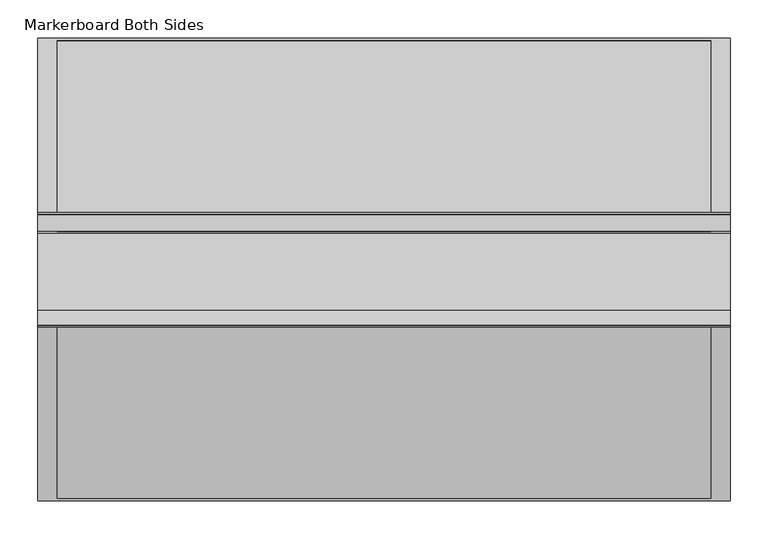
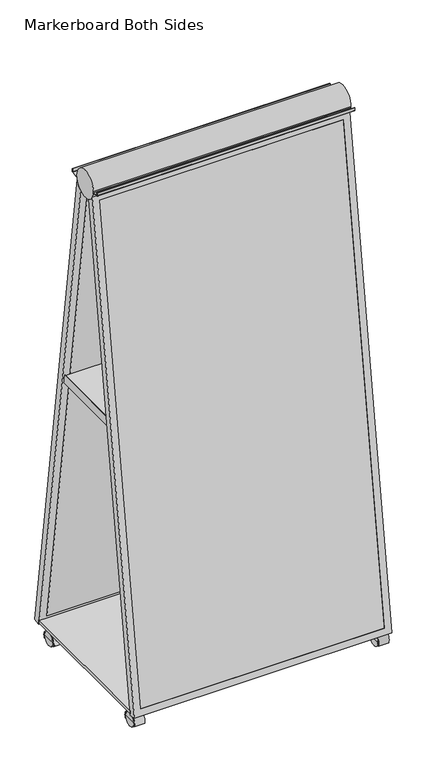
"""IFC4 building model written with IfcOpenShell, lengths in millimetres: furniture geometry, Steelcase - Groupwork - Display Component - Mobile Easel : Markerboard Both Sides."""

from ifc_helpers import new_model, si_unit, point, frame, frame_2d, origin, place, context, project, spatial, polyline, circle_curve, trimmed, segment, composite_curve, outline, extrude, source, transform, mapped, element, save
from ifc_brep_helpers import plane_surface, cylinder_surface, revolved_surface, advanced_brep


def markerboard_both_sides_742e3653(model_context):
    return source(origin(), model_context, "Body", "SolidModel", [
        extrude(outline(polyline([(912.241, 209.0803958), (912.241, -353.9569485), (-2.159, -353.9569485), (-2.159, 209.0803958), (912.241, 209.0803958)])), frame((0.0, 0.0, 55.9559345), z_axis=(0.0, 0.0, 1.0), x_axis=(1.0, 0.0, 0.0)), (0.0, 0.0, 1.0), 11.0744716),
        extrude(outline(composite_curve([segment(trimmed(circle_curve(frame_2d((-340.896683, 23.773811)), 29.5665427), [point((-368.7647403, 13.8969779))], [point((-313.0286257, 13.8969779))], False, "CARTESIAN"), True, "CONTINUOUS"), segment(polyline([(-313.0286257, 13.8969779), (-314.947255, 13.8969779)]), True, "CONTINUOUS"), segment(trimmed(circle_curve(frame_2d((-341.0549615, 23.1610765)), 27.7026327), [point((-314.947255, 13.8969779))], [point((-367.162668, 13.8969779))], True, "CARTESIAN"), True, "CONTINUOUS"), segment(polyline([(-367.162668, 13.8969779), (-368.7647403, 13.8969779)]), True, "CONTINUOUS")], self_intersect=False)), frame((870.3435574, 0.0, 0.0), z_axis=(1.0, 0.0, 0.0), x_axis=(0.0, 1.0, 0.0)), (0.0, 0.0, 1.0), 36.499807),
        extrude(outline(composite_curve([segment(trimmed(circle_curve(frame_2d((888.4018199, -322.7584539)), 6.6605385), [point((895.0623585, -322.7584539))], [point((881.7412814, -322.7584539))], False, "CARTESIAN"), True, "CONTINUOUS"), segment(trimmed(circle_curve(frame_2d((888.4018199, -322.7584539)), 6.6605385), [point((881.7412814, -322.7584539))], [point((895.0623585, -322.7584539))], False, "CARTESIAN"), True, "CONTINUOUS")], self_intersect=False)), frame((0.0, 0.0, 38.0999972), z_axis=(0.0, 0.0, 1.0), x_axis=(1.0, 0.0, 0.0)), (0.0, 0.0, 1.0), 19.0500194),
        advanced_brep(
        [(906.8433643, -341.1556844, 25.003125), (906.8433643, -365.7301049, 25.003125), (906.8433643, -316.5812638, 25.003125), (870.3435574, -316.5812638, 25.003125), (870.3435574, -365.7301049, 25.003125), (870.3435574, -341.1556844, 25.003125), (895.3304043, -365.7301049, 25.003125), (895.3304043, -316.5812638, 25.003125), (895.3304043, -354.0067895, 25.003125), (895.3304043, -328.3045792, 25.003125), (881.8565174, -354.0067895, 25.003125), (881.8565174, -328.3045792, 25.003125), (881.8565174, -365.7301049, 25.003125), (881.8565174, -316.5812638, 25.003125)],
        [
            (0, 1),
            (1, 2, circle_curve(frame((906.8433643, -341.1556844, 25.003125), z_axis=(1.0, 0.0, 0.0), x_axis=(0.0, -1.0, 0.0)), 24.5744205)),
            (2, 0),
            (2, 1, circle_curve(frame((906.8433643, -341.1556844, 25.003125), z_axis=(1.0, 0.0, 0.0), x_axis=(0.0, -1.0, 0.0)), 24.5744205)),
            (3, 4, circle_curve(frame((870.3435574, -341.1556844, 25.003125), z_axis=(-1.0, 0.0, 0.0), x_axis=(0.0, -1.0, 0.0)), 24.5744205)),
            (4, 5),
            (5, 3),
            (4, 3, circle_curve(frame((870.3435574, -341.1556844, 25.003125), z_axis=(-1.0, 0.0, 0.0), x_axis=(0.0, -1.0, 0.0)), 24.5744205)),
            (1, 6),
            (6, 7, circle_curve(frame((895.3304043, -341.1556844, 25.003125), z_axis=(1.0, 0.0, 0.0), x_axis=(0.0, -1.0, 0.0)), 24.5744205)),
            (7, 2),
            (7, 6, circle_curve(frame((895.3304043, -341.1556844, 25.003125), z_axis=(1.0, 0.0, 0.0), x_axis=(0.0, -1.0, 0.0)), 24.5744205)),
            (6, 8),
            (8, 9, circle_curve(frame((895.3304043, -341.1556844, 25.003125), z_axis=(1.0, 0.0, 0.0), x_axis=(0.0, -1.0, 0.0)), 12.8511051)),
            (9, 7),
            (9, 8, circle_curve(frame((895.3304043, -341.1556844, 25.003125), z_axis=(1.0, 0.0, 0.0), x_axis=(0.0, -1.0, 0.0)), 12.8511051)),
            (8, 10),
            (10, 11, circle_curve(frame((881.8565174, -341.1556844, 25.003125), z_axis=(1.0, 0.0, 0.0), x_axis=(0.0, -1.0, 0.0)), 12.8511051)),
            (11, 9),
            (11, 10, circle_curve(frame((881.8565174, -341.1556844, 25.003125), z_axis=(1.0, 0.0, 0.0), x_axis=(0.0, -1.0, 0.0)), 12.8511051)),
            (10, 12),
            (12, 13, circle_curve(frame((881.8565174, -341.1556844, 25.003125), z_axis=(1.0, 0.0, 0.0), x_axis=(0.0, -1.0, 0.0)), 24.5744205)),
            (13, 11),
            (13, 12, circle_curve(frame((881.8565174, -341.1556844, 25.003125), z_axis=(1.0, 0.0, 0.0), x_axis=(0.0, -1.0, 0.0)), 24.5744205)),
            (12, 4),
            (3, 13),
        ],
        [
            plane_surface(frame((906.8433643, -341.1556844, 25.003125), z_axis=(1.0, 0.0, 0.0), x_axis=(0.0, -1.0, 0.0))),
            plane_surface(frame((870.3435574, -341.1556844, 25.003125), z_axis=(-1.0, 0.0, 0.0), x_axis=(0.0, -1.0, 0.0))),
            cylinder_surface(frame((865.1938717, -341.1556844, 25.003125), z_axis=(1.0, 0.0, 0.0), x_axis=(0.0, -1.0, 0.0)), 24.5744205),
            plane_surface(frame((895.3304043, -341.1556844, 25.003125), z_axis=(-1.0, 0.0, 0.0), x_axis=(0.0, -1.0, 0.0))),
            cylinder_surface(frame((865.1938717, -341.1556844, 25.003125), z_axis=(1.0, 0.0, 0.0), x_axis=(0.0, -1.0, 0.0)), 12.8511051),
            plane_surface(frame((881.8565174, -341.1556844, 25.003125), z_axis=(1.0, 0.0, 0.0), x_axis=(0.0, -1.0, 0.0))),
        ],
        [
            (0, [[1, 2, 3]]),
            (0, [[-3, 4, -1]]),
            (1, [[5, 6, 7]]),
            (1, [[8, -7, -6]]),
            (2, [[-2, 9, 10, 11]]),
            (2, [[-4, -11, 12, -9]]),
            (3, [[-10, 13, 14, 15]]),
            (3, [[-12, -15, 16, -13]]),
            (4, [[-14, 17, 18, 19]]),
            (4, [[-16, -19, 20, -17]]),
            (5, [[-18, 21, 22, 23]]),
            (5, [[-20, -23, 24, -21]]),
            (2, [[-22, 25, -5, 26]]),
            (2, [[-24, -26, -8, -25]]),
        ],
    ),
        extrude(outline(composite_curve([segment(trimmed(circle_curve(frame_2d((-340.896683, 23.773811)), 29.5665427), [point((-368.7647403, 13.8969779))], [point((-313.0286257, 13.8969779))], False, "CARTESIAN"), True, "CONTINUOUS"), segment(polyline([(-313.0286257, 13.8969779), (-314.947255, 13.8969779)]), True, "CONTINUOUS"), segment(trimmed(circle_curve(frame_2d((-341.0549615, 23.1610765)), 27.7026327), [point((-314.947255, 13.8969779))], [point((-367.162668, 13.8969779))], True, "CARTESIAN"), True, "CONTINUOUS"), segment(polyline([(-367.162668, 13.8969779), (-368.7647403, 13.8969779)]), True, "CONTINUOUS")], self_intersect=False)), frame((3.2386357, 0.0, 0.0), z_axis=(1.0, 0.0, 0.0), x_axis=(0.0, 1.0, 0.0)), (0.0, 0.0, 1.0), 36.499807),
        extrude(outline(composite_curve([segment(trimmed(circle_curve(frame_2d((21.6801801, -322.7584539)), 6.6605385), [point((15.0196415, -322.7584539))], [point((28.3407186, -322.7584539))], False, "CARTESIAN"), True, "CONTINUOUS"), segment(trimmed(circle_curve(frame_2d((21.6801801, -322.7584539)), 6.6605385), [point((28.3407186, -322.7584539))], [point((15.0196415, -322.7584539))], False, "CARTESIAN"), True, "CONTINUOUS")], self_intersect=False)), frame((0.0, 0.0, 38.0999972), z_axis=(0.0, 0.0, 1.0), x_axis=(1.0, 0.0, 0.0)), (0.0, 0.0, 1.0), 19.0500194),
        advanced_brep(
        [(3.2386357, -316.5812638, 25.003125), (3.2386357, -365.7301049, 25.003125), (3.2386357, -341.1556844, 25.003125), (39.7384426, -341.1556844, 25.003125), (39.7384426, -365.7301049, 25.003125), (39.7384426, -316.5812638, 25.003125), (14.7515957, -316.5812638, 25.003125), (14.7515957, -365.7301049, 25.003125), (14.7515957, -328.3045792, 25.003125), (14.7515957, -354.0067895, 25.003125), (28.2254826, -328.3045792, 25.003125), (28.2254826, -354.0067895, 25.003125), (28.2254826, -316.5812638, 25.003125), (28.2254826, -365.7301049, 25.003125)],
        [
            (0, 1, circle_curve(frame((3.2386357, -341.1556844, 25.003125), z_axis=(-1.0, 0.0, 0.0), x_axis=(0.0, -1.0, 0.0)), 24.5744205)),
            (1, 2),
            (2, 0),
            (1, 0, circle_curve(frame((3.2386357, -341.1556844, 25.003125), z_axis=(-1.0, 0.0, 0.0), x_axis=(0.0, -1.0, 0.0)), 24.5744205)),
            (3, 4),
            (4, 5, circle_curve(frame((39.7384426, -341.1556844, 25.003125), z_axis=(1.0, 0.0, 0.0), x_axis=(0.0, -1.0, 0.0)), 24.5744205)),
            (5, 3),
            (5, 4, circle_curve(frame((39.7384426, -341.1556844, 25.003125), z_axis=(1.0, 0.0, 0.0), x_axis=(0.0, -1.0, 0.0)), 24.5744205)),
            (6, 7, circle_curve(frame((14.7515957, -341.1556844, 25.003125), z_axis=(-1.0, 0.0, 0.0), x_axis=(0.0, -1.0, 0.0)), 24.5744205)),
            (7, 1),
            (0, 6),
            (7, 6, circle_curve(frame((14.7515957, -341.1556844, 25.003125), z_axis=(-1.0, 0.0, 0.0), x_axis=(0.0, -1.0, 0.0)), 24.5744205)),
            (8, 9, circle_curve(frame((14.7515957, -341.1556844, 25.003125), z_axis=(-1.0, 0.0, 0.0), x_axis=(0.0, -1.0, 0.0)), 12.8511051)),
            (9, 7),
            (6, 8),
            (9, 8, circle_curve(frame((14.7515957, -341.1556844, 25.003125), z_axis=(-1.0, 0.0, 0.0), x_axis=(0.0, -1.0, 0.0)), 12.8511051)),
            (10, 11, circle_curve(frame((28.2254826, -341.1556844, 25.003125), z_axis=(-1.0, 0.0, 0.0), x_axis=(0.0, -1.0, 0.0)), 12.8511051)),
            (11, 9),
            (8, 10),
            (11, 10, circle_curve(frame((28.2254826, -341.1556844, 25.003125), z_axis=(-1.0, 0.0, 0.0), x_axis=(0.0, -1.0, 0.0)), 12.8511051)),
            (12, 13, circle_curve(frame((28.2254826, -341.1556844, 25.003125), z_axis=(-1.0, 0.0, 0.0), x_axis=(0.0, -1.0, 0.0)), 24.5744205)),
            (13, 11),
            (10, 12),
            (13, 12, circle_curve(frame((28.2254826, -341.1556844, 25.003125), z_axis=(-1.0, 0.0, 0.0), x_axis=(0.0, -1.0, 0.0)), 24.5744205)),
            (4, 13),
            (12, 5),
        ],
        [
            plane_surface(frame((3.2386357, -341.1556844, 25.003125), z_axis=(-1.0, 0.0, 0.0), x_axis=(0.0, -1.0, 0.0))),
            plane_surface(frame((39.7384426, -341.1556844, 25.003125), z_axis=(1.0, 0.0, 0.0), x_axis=(0.0, -1.0, 0.0))),
            cylinder_surface(frame((44.8881283, -341.1556844, 25.003125), z_axis=(1.0, 0.0, 0.0), x_axis=(0.0, -1.0, 0.0)), 24.5744205),
            plane_surface(frame((14.7515957, -341.1556844, 25.003125), z_axis=(1.0, 0.0, 0.0), x_axis=(0.0, -1.0, 0.0))),
            cylinder_surface(frame((44.8881283, -341.1556844, 25.003125), z_axis=(1.0, 0.0, 0.0), x_axis=(0.0, -1.0, 0.0)), 12.8511051),
            plane_surface(frame((28.2254826, -341.1556844, 25.003125), z_axis=(-1.0, 0.0, 0.0), x_axis=(0.0, -1.0, 0.0))),
        ],
        [
            (0, [[1, 2, 3]]),
            (0, [[4, -3, -2]]),
            (1, [[5, 6, 7]]),
            (1, [[-7, 8, -5]]),
            (2, [[9, 10, -1, 11]]),
            (2, [[12, -11, -4, -10]]),
            (3, [[13, 14, -9, 15]]),
            (3, [[16, -15, -12, -14]]),
            (4, [[17, 18, -13, 19]]),
            (4, [[20, -19, -16, -18]]),
            (5, [[21, 22, -17, 23]]),
            (5, [[24, -23, -20, -22]]),
            (2, [[-6, 25, -21, 26]]),
            (2, [[-8, -26, -24, -25]]),
        ],
    ),
        extrude(outline(composite_curve([segment(trimmed(circle_curve(frame_2d((157.2258919, 23.376936)), 29.5665427), [point((129.3578346, 13.5001029))], [point((185.0939492, 13.5001029))], False, "CARTESIAN"), True, "CONTINUOUS"), segment(polyline([(185.0939492, 13.5001029), (183.1753199, 13.5001029)]), True, "CONTINUOUS"), segment(trimmed(circle_curve(frame_2d((157.0676134, 22.7642015)), 27.7026327), [point((183.1753199, 13.5001029))], [point((130.959907, 13.5001029))], True, "CARTESIAN"), True, "CONTINUOUS"), segment(polyline([(130.959907, 13.5001029), (129.3578346, 13.5001029)]), True, "CONTINUOUS")], self_intersect=False)), frame((870.3435574, 0.0, 0.0), z_axis=(1.0, 0.0, 0.0), x_axis=(0.0, 1.0, 0.0)), (0.0, 0.0, 1.0), 36.499807),
        extrude(outline(composite_curve([segment(trimmed(circle_curve(frame_2d((888.4018199, 175.364121)), 6.6605385), [point((895.0623585, 175.364121))], [point((881.7412814, 175.364121))], False, "CARTESIAN"), True, "CONTINUOUS"), segment(trimmed(circle_curve(frame_2d((888.4018199, 175.364121)), 6.6605385), [point((881.7412814, 175.364121))], [point((895.0623585, 175.364121))], False, "CARTESIAN"), True, "CONTINUOUS")], self_intersect=False)), frame((0.0, 0.0, 38.0999972), z_axis=(0.0, 0.0, 1.0), x_axis=(1.0, 0.0, 0.0)), (0.0, 0.0, 1.0), 19.0500194),
        advanced_brep(
        [(906.8433643, 156.9668906, 25.003125), (906.8433643, 132.39247, 25.003125), (906.8433643, 181.5413111, 25.003125), (870.3435574, 181.5413111, 25.003125), (870.3435574, 132.39247, 25.003125), (870.3435574, 156.9668906, 25.003125), (895.3304043, 132.39247, 25.003125), (895.3304043, 181.5413111, 25.003125), (895.3304043, 144.1157855, 25.003125), (895.3304043, 169.8179957, 25.003125), (881.8565174, 144.1157855, 25.003125), (881.8565174, 169.8179957, 25.003125), (881.8565174, 132.39247, 25.003125), (881.8565174, 181.5413111, 25.003125)],
        [
            (0, 1),
            (1, 2, circle_curve(frame((906.8433643, 156.9668906, 25.003125), z_axis=(1.0, 0.0, 0.0), x_axis=(0.0, -1.0, 0.0)), 24.5744205)),
            (2, 0),
            (2, 1, circle_curve(frame((906.8433643, 156.9668906, 25.003125), z_axis=(1.0, 0.0, 0.0), x_axis=(0.0, -1.0, 0.0)), 24.5744205)),
            (3, 4, circle_curve(frame((870.3435574, 156.9668906, 25.003125), z_axis=(-1.0, 0.0, 0.0), x_axis=(0.0, -1.0, 0.0)), 24.5744205)),
            (4, 5),
            (5, 3),
            (4, 3, circle_curve(frame((870.3435574, 156.9668906, 25.003125), z_axis=(-1.0, 0.0, 0.0), x_axis=(0.0, -1.0, 0.0)), 24.5744205)),
            (1, 6),
            (6, 7, circle_curve(frame((895.3304043, 156.9668906, 25.003125), z_axis=(1.0, 0.0, 0.0), x_axis=(0.0, -1.0, 0.0)), 24.5744205)),
            (7, 2),
            (7, 6, circle_curve(frame((895.3304043, 156.9668906, 25.003125), z_axis=(1.0, 0.0, 0.0), x_axis=(0.0, -1.0, 0.0)), 24.5744205)),
            (6, 8),
            (8, 9, circle_curve(frame((895.3304043, 156.9668906, 25.003125), z_axis=(1.0, 0.0, 0.0), x_axis=(0.0, -1.0, 0.0)), 12.8511051)),
            (9, 7),
            (9, 8, circle_curve(frame((895.3304043, 156.9668906, 25.003125), z_axis=(1.0, 0.0, 0.0), x_axis=(0.0, -1.0, 0.0)), 12.8511051)),
            (8, 10),
            (10, 11, circle_curve(frame((881.8565174, 156.9668906, 25.003125), z_axis=(1.0, 0.0, 0.0), x_axis=(0.0, -1.0, 0.0)), 12.8511051)),
            (11, 9),
            (11, 10, circle_curve(frame((881.8565174, 156.9668906, 25.003125), z_axis=(1.0, 0.0, 0.0), x_axis=(0.0, -1.0, 0.0)), 12.8511051)),
            (10, 12),
            (12, 13, circle_curve(frame((881.8565174, 156.9668906, 25.003125), z_axis=(1.0, 0.0, 0.0), x_axis=(0.0, -1.0, 0.0)), 24.5744205)),
            (13, 11),
            (13, 12, circle_curve(frame((881.8565174, 156.9668906, 25.003125), z_axis=(1.0, 0.0, 0.0), x_axis=(0.0, -1.0, 0.0)), 24.5744205)),
            (12, 4),
            (3, 13),
        ],
        [
            plane_surface(frame((906.8433643, 156.9668906, 25.003125), z_axis=(1.0, 0.0, 0.0), x_axis=(0.0, -1.0, 0.0))),
            plane_surface(frame((870.3435574, 156.9668906, 25.003125), z_axis=(-1.0, 0.0, 0.0), x_axis=(0.0, -1.0, 0.0))),
            cylinder_surface(frame((865.1938717, 156.9668906, 25.003125), z_axis=(1.0, 0.0, 0.0), x_axis=(0.0, -1.0, 0.0)), 24.5744205),
            plane_surface(frame((895.3304043, 156.9668906, 25.003125), z_axis=(-1.0, 0.0, 0.0), x_axis=(0.0, -1.0, 0.0))),
            cylinder_surface(frame((865.1938717, 156.9668906, 25.003125), z_axis=(1.0, 0.0, 0.0), x_axis=(0.0, -1.0, 0.0)), 12.8511051),
            plane_surface(frame((881.8565174, 156.9668906, 25.003125), z_axis=(1.0, 0.0, 0.0), x_axis=(0.0, -1.0, 0.0))),
        ],
        [
            (0, [[1, 2, 3]]),
            (0, [[-3, 4, -1]]),
            (1, [[5, 6, 7]]),
            (1, [[8, -7, -6]]),
            (2, [[-2, 9, 10, 11]]),
            (2, [[-4, -11, 12, -9]]),
            (3, [[-10, 13, 14, 15]]),
            (3, [[-12, -15, 16, -13]]),
            (4, [[-14, 17, 18, 19]]),
            (4, [[-16, -19, 20, -17]]),
            (5, [[-18, 21, 22, 23]]),
            (5, [[-20, -23, 24, -21]]),
            (2, [[-22, 25, -5, 26]]),
            (2, [[-24, -26, -8, -25]]),
        ],
    ),
        extrude(outline(composite_curve([segment(trimmed(circle_curve(frame_2d((157.2258919, 23.376936)), 29.5665427), [point((129.3578346, 13.5001029))], [point((185.0939492, 13.5001029))], False, "CARTESIAN"), True, "CONTINUOUS"), segment(polyline([(185.0939492, 13.5001029), (183.1753199, 13.5001029)]), True, "CONTINUOUS"), segment(trimmed(circle_curve(frame_2d((157.0676134, 22.7642015)), 27.7026327), [point((183.1753199, 13.5001029))], [point((130.959907, 13.5001029))], True, "CARTESIAN"), True, "CONTINUOUS"), segment(polyline([(130.959907, 13.5001029), (129.3578346, 13.5001029)]), True, "CONTINUOUS")], self_intersect=False)), frame((3.2386357, 0.0, 0.0), z_axis=(1.0, 0.0, 0.0), x_axis=(0.0, 1.0, 0.0)), (0.0, 0.0, 1.0), 36.499807),
        extrude(outline(composite_curve([segment(trimmed(circle_curve(frame_2d((21.6801801, 175.364121)), 6.6605385), [point((15.0196415, 175.364121))], [point((28.3407186, 175.364121))], False, "CARTESIAN"), True, "CONTINUOUS"), segment(trimmed(circle_curve(frame_2d((21.6801801, 175.364121)), 6.6605385), [point((28.3407186, 175.364121))], [point((15.0196415, 175.364121))], False, "CARTESIAN"), True, "CONTINUOUS")], self_intersect=False)), frame((0.0, 0.0, 38.0999972), z_axis=(0.0, 0.0, 1.0), x_axis=(1.0, 0.0, 0.0)), (0.0, 0.0, 1.0), 19.0500194),
        advanced_brep(
        [(3.2386357, 181.5413111, 25.003125), (3.2386357, 132.39247, 25.003125), (3.2386357, 156.9668906, 25.003125), (39.7384426, 156.9668906, 25.003125), (39.7384426, 132.39247, 25.003125), (39.7384426, 181.5413111, 25.003125), (14.7515957, 181.5413111, 25.003125), (14.7515957, 132.39247, 25.003125), (14.7515957, 169.8179957, 25.003125), (14.7515957, 144.1157855, 25.003125), (28.2254826, 169.8179957, 25.003125), (28.2254826, 144.1157855, 25.003125), (28.2254826, 181.5413111, 25.003125), (28.2254826, 132.39247, 25.003125)],
        [
            (0, 1, circle_curve(frame((3.2386357, 156.9668906, 25.003125), z_axis=(-1.0, 0.0, 0.0), x_axis=(0.0, -1.0, 0.0)), 24.5744205)),
            (1, 2),
            (2, 0),
            (1, 0, circle_curve(frame((3.2386357, 156.9668906, 25.003125), z_axis=(-1.0, 0.0, 0.0), x_axis=(0.0, -1.0, 0.0)), 24.5744205)),
            (3, 4),
            (4, 5, circle_curve(frame((39.7384426, 156.9668906, 25.003125), z_axis=(1.0, 0.0, 0.0), x_axis=(0.0, -1.0, 0.0)), 24.5744205)),
            (5, 3),
            (5, 4, circle_curve(frame((39.7384426, 156.9668906, 25.003125), z_axis=(1.0, 0.0, 0.0), x_axis=(0.0, -1.0, 0.0)), 24.5744205)),
            (6, 7, circle_curve(frame((14.7515957, 156.9668906, 25.003125), z_axis=(-1.0, 0.0, 0.0), x_axis=(0.0, -1.0, 0.0)), 24.5744205)),
            (7, 1),
            (0, 6),
            (7, 6, circle_curve(frame((14.7515957, 156.9668906, 25.003125), z_axis=(-1.0, 0.0, 0.0), x_axis=(0.0, -1.0, 0.0)), 24.5744205)),
            (8, 9, circle_curve(frame((14.7515957, 156.9668906, 25.003125), z_axis=(-1.0, 0.0, 0.0), x_axis=(0.0, -1.0, 0.0)), 12.8511051)),
            (9, 7),
            (6, 8),
            (9, 8, circle_curve(frame((14.7515957, 156.9668906, 25.003125), z_axis=(-1.0, 0.0, 0.0), x_axis=(0.0, -1.0, 0.0)), 12.8511051)),
            (10, 11, circle_curve(frame((28.2254826, 156.9668906, 25.003125), z_axis=(-1.0, 0.0, 0.0), x_axis=(0.0, -1.0, 0.0)), 12.8511051)),
            (11, 9),
            (8, 10),
            (11, 10, circle_curve(frame((28.2254826, 156.9668906, 25.003125), z_axis=(-1.0, 0.0, 0.0), x_axis=(0.0, -1.0, 0.0)), 12.8511051)),
            (12, 13, circle_curve(frame((28.2254826, 156.9668906, 25.003125), z_axis=(-1.0, 0.0, 0.0), x_axis=(0.0, -1.0, 0.0)), 24.5744205)),
            (13, 11),
            (10, 12),
            (13, 12, circle_curve(frame((28.2254826, 156.9668906, 25.003125), z_axis=(-1.0, 0.0, 0.0), x_axis=(0.0, -1.0, 0.0)), 24.5744205)),
            (4, 13),
            (12, 5),
        ],
        [
            plane_surface(frame((3.2386357, 156.9668906, 25.003125), z_axis=(-1.0, 0.0, 0.0), x_axis=(0.0, -1.0, 0.0))),
            plane_surface(frame((39.7384426, 156.9668906, 25.003125), z_axis=(1.0, 0.0, 0.0), x_axis=(0.0, -1.0, 0.0))),
            cylinder_surface(frame((44.8881283, 156.9668906, 25.003125), z_axis=(1.0, 0.0, 0.0), x_axis=(0.0, -1.0, 0.0)), 24.5744205),
            plane_surface(frame((14.7515957, 156.9668906, 25.003125), z_axis=(1.0, 0.0, 0.0), x_axis=(0.0, -1.0, 0.0))),
            cylinder_surface(frame((44.8881283, 156.9668906, 25.003125), z_axis=(1.0, 0.0, 0.0), x_axis=(0.0, -1.0, 0.0)), 12.8511051),
            plane_surface(frame((28.2254826, 156.9668906, 25.003125), z_axis=(-1.0, 0.0, 0.0), x_axis=(0.0, -1.0, 0.0))),
        ],
        [
            (0, [[1, 2, 3]]),
            (0, [[4, -3, -2]]),
            (1, [[5, 6, 7]]),
            (1, [[-7, 8, -5]]),
            (2, [[9, 10, -1, 11]]),
            (2, [[12, -11, -4, -10]]),
            (3, [[13, 14, -9, 15]]),
            (3, [[16, -15, -12, -14]]),
            (4, [[17, 18, -13, 19]]),
            (4, [[20, -19, -16, -18]]),
            (5, [[21, 22, -17, 23]]),
            (5, [[24, -23, -20, -22]]),
            (2, [[-6, 25, -21, 26]]),
            (2, [[-8, -26, -24, -25]]),
        ],
    ),
        extrude(outline(polyline([(4.9202191, 66.5620427), (4.9202191, -211.2074513), (3.5813473, -211.2074513), (3.5813473, 66.5620427), (4.9202191, 66.5620427)])), frame((0.0, 0.0, 1043.9653473), z_axis=(0.0, 0.0, 1.0), x_axis=(1.0, 0.0, 0.0)), (0.0, 0.0, 1.0), 31.1149929),
        extrude(outline(polyline([(907.6056012, 66.8343234), (908.944473, 66.8343234), (908.944473, -211.2074513), (907.6056012, -211.2074513), (907.6056012, 66.8343234)])), frame((0.0, 0.0, 1043.9653473), z_axis=(0.0, 0.0, 1.0), x_axis=(1.0, 0.0, 0.0)), (0.0, 0.0, 1.0), 31.1149929),
        extrude(outline(polyline([(907.6230753, 56.2244206), (911.3863243, -203.5931507), (4.9202191, -203.5931507), (4.9202191, 56.2244206), (907.6230753, 56.2244206)]), holes=[polyline([(832.1293202, -11.9961246), (523.9004597, -11.9961246), (523.9004597, -135.4182855), (832.1293202, -135.4182855), (832.1293202, -11.9961246)])]), frame((0.0, 0.0, 1073.7582962), z_axis=(0.0, 0.0, 1.0), x_axis=(1.0, 0.0, 0.0)), (0.0, 0.0, 1.0), 1.322044),
        extrude(outline(polyline([(0.0, -863.6000234), (0.0, 0.0), (25.4130401, 0.0), (25.4130401, -863.6000234), (0.0, -863.6000234)])), frame((23.2410008, -375.1625532, 79.563883), z_axis=(0.0, 0.14199919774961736, 0.9898667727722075), x_axis=(0.0, 0.9898667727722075, -0.14199919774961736)), (0.0, 0.0, 1.0), 1775.4529323),
        extrude(outline(polyline([(0.0, -863.6000234), (0.0, 0.0), (25.4130402, 0.0), (25.4130402, -863.6000234), (0.0, -863.6000234)])), frame((886.8410242, 229.6904126, 79.563883), z_axis=(0.0, -0.14199919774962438, 0.9898667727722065), x_axis=(0.0, -0.9898667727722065, -0.14199919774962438)), (0.0, 0.0, 1.0), 1779.1600852),
        extrude(outline(composite_curve([segment(polyline([(-149.1854251, 1878.0088503), (-149.1854251, 1888.733676), (-147.6613903, 1888.733676), (-147.6613903, 1878.6725989)]), True, "CONTINUOUS"), segment(trimmed(circle_curve(frame_2d((-146.4220817, 1878.6725989)), 1.2393085), [point((-147.6613903, 1878.6725989))], [point((-146.5850879, 1877.4440573))], True, "CARTESIAN"), True, "CONTINUOUS"), segment(polyline([(-146.5850879, 1877.4440573), (-124.8672534, 1874.5624771), (-125.0708281, 1873.0281793), (-147.419817, 1875.9935028)]), True, "CONTINUOUS"), segment(trimmed(circle_curve(frame_2d((-147.1524153, 1878.0088503)), 2.0330099), [point((-147.419817, 1875.9935028))], [point((-149.1854251, 1878.0088503))], False, "CARTESIAN"), True, "CONTINUOUS")], self_intersect=False)), frame((-2.159, 0.0, 0.0), z_axis=(1.0, 0.0, 0.0), x_axis=(0.0, 1.0, 0.0)), (0.0, 0.0, 1.0), 914.4),
        extrude(outline(composite_curve([segment(trimmed(circle_curve(frame_2d((0.0927744, 1878.0088503)), 2.0330099), [point((2.1257843, 1878.0088503))], [point((0.3601761, 1875.9935028))], False, "CARTESIAN"), True, "CONTINUOUS"), segment(polyline([(0.3601761, 1875.9935028), (-21.9888128, 1873.0281793), (-22.1923875, 1874.5624771), (-0.474553, 1877.4440573)]), True, "CONTINUOUS"), segment(trimmed(circle_curve(frame_2d((-0.6375591, 1878.6725989)), 1.2393085), [point((-0.474553, 1877.4440573))], [point((0.6017494, 1878.6725989))], True, "CARTESIAN"), True, "CONTINUOUS"), segment(polyline([(0.6017494, 1878.6725989), (0.6017494, 1888.733676), (2.1257843, 1888.733676), (2.1257843, 1878.0088503)]), True, "CONTINUOUS")], self_intersect=False)), frame((-2.159, 0.0, 0.0), z_axis=(1.0, 0.0, 0.0), x_axis=(0.0, 1.0, 0.0)), (0.0, 0.0, 1.0), 914.4),
        extrude(outline(composite_curve([segment(trimmed(circle_curve(frame_2d((-75.9110704, 1879.6)), 50.7999998), [point((-126.7110703, 1879.6))], [point((-25.1110706, 1879.6))], False, "CARTESIAN"), True, "CONTINUOUS"), segment(trimmed(circle_curve(frame_2d((-75.9110704, 1879.6)), 50.7999998), [point((-25.1110706, 1879.6))], [point((-126.7110703, 1879.6))], False, "CARTESIAN"), True, "CONTINUOUS")], self_intersect=False)), frame((-2.159, 0.0, 0.0), z_axis=(1.0, 0.0, 0.0), x_axis=(0.0, 1.0, 0.0)), (0.0, 0.0, 1.0), 914.4),
        advanced_brep(
        [(912.241, -97.842371, 1833.7779743), (912.241, -120.4477065, 1855.1637968), (912.241, -378.7711452, 54.4086328), (912.241, -353.6156212, 50.8000015), (-2.159, -97.842371, 1833.7779743), (-2.159, -353.6156212, 50.8000015), (-2.159, -378.7711452, 54.4086328), (-2.159, -120.4477065, 1855.1637968), (886.8410242, -350.0070292, 75.9552517), (886.8410242, -97.8941372, 1833.417116), (23.2410008, -97.8941372, 1833.417116), (23.2410008, -350.0070292, 75.9552517), (886.8410242, -123.0496612, 1837.0257474), (886.8410242, -375.1625532, 79.563883), (23.2410008, -375.1625532, 79.563883), (23.2410008, -123.0496612, 1837.0257474)],
        [
            (0, 1, circle_curve(frame((912.241, -75.9110704, 1879.6), z_axis=(-1.0, 0.0, 0.0), x_axis=(0.0, -1.0, 0.0)), 50.7999998)),
            (1, 2),
            (2, 3),
            (3, 0),
            (4, 5),
            (5, 6),
            (6, 7),
            (7, 4, circle_curve(frame((-2.159, -75.9110704, 1879.6), z_axis=(1.0, 0.0, 0.0), x_axis=(0.0, -1.0, 0.0)), 50.7999998)),
            (3, 5),
            (4, 0),
            (8, 9),
            (9, 10),
            (10, 11),
            (11, 8),
            (2, 6),
            (1, 7),
            (12, 13),
            (13, 14),
            (14, 15),
            (15, 12),
            (12, 9),
            (8, 13),
            (11, 14),
            (10, 15),
        ],
        [
            plane_surface(frame((912.241, -126.7110703, 1879.6), z_axis=(1.0, 0.0, 0.0), x_axis=(0.0, 0.0, 1.0))),
            plane_surface(frame((-2.159, -126.7110703, 1879.6), z_axis=(-1.0, 0.0, 0.0), x_axis=(0.0, 0.0, -1.0))),
            plane_surface(frame((912.241, -353.6156212, 50.8000015), z_axis=(0.0, 0.9898667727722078, -0.1419991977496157), x_axis=(-1.0, 0.0, 0.0))),
            plane_surface(frame((912.241, -378.7711452, 54.4086328), z_axis=(0.0, -0.141999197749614, -0.989866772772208), x_axis=(-1.0, 0.0, 0.0))),
            plane_surface(frame((912.241, -120.4477065, 1855.1637968), z_axis=(0.0, -0.9898667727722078, 0.14199919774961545), x_axis=(-1.0, 0.0, 0.0))),
            revolved_surface(polyline([(-2.159, -126.7110702, 1879.6), (912.241, -126.7110702, 1879.6)]), (-2.159, -75.9110704, 1879.6), (-1.0, 0.0, 0.0)),
            plane_surface(frame((886.8410242, -97.8941396, 1833.4171164), z_axis=(-1.0000000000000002, 0.0, 0.0), x_axis=(0.0, -0.9898667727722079, 0.14199919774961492))),
            plane_surface(frame((886.8410242, -350.0070316, 75.9552521), z_axis=(0.0, 0.141999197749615, 0.9898667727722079), x_axis=(0.0, -0.9898667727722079, 0.141999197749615))),
            plane_surface(frame((23.2410008, -350.0070316, 75.9552521), z_axis=(1.0000000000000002, 0.0, 0.0), x_axis=(0.0, -0.9898667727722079, 0.141999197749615))),
            plane_surface(frame((23.2410008, -97.8941396, 1833.4171164), z_axis=(0.0, -0.14199919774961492, -0.9898667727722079), x_axis=(0.0, -0.9898667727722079, 0.14199919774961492))),
        ],
        [
            (0, [[1, 2, 3, 4]]),
            (1, [[5, 6, 7, 8]]),
            (2, [[-4, 9, -5, 10], [11, 12, 13, 14]]),
            (3, [[-3, 15, -6, -9]]),
            (4, [[-2, 16, -7, -15], [17, 18, 19, 20]]),
            (5, [[-1, -10, -8, -16]]),
            (6, [[21, -11, 22, -17]]),
            (7, [[-22, -14, 23, -18]]),
            (8, [[-23, -13, 24, -19]]),
            (9, [[-21, -20, -24, -12]]),
        ],
    ),
        advanced_brep(
        [(912.241, -48.1044162, 1837.0867035), (912.241, 208.1434806, 50.8000015), (912.241, 233.2990046, 54.4086328), (912.241, -26.7138024, 1866.9402685), (-2.159, -48.1044162, 1837.0867035), (-2.159, -26.7138024, 1866.9402685), (-2.159, 233.2990046, 54.4086328), (-2.159, 208.1434806, 50.8000015), (886.8410242, -48.1044162, 1837.0867035), (886.8410242, 204.5348885, 75.9552517), (23.2410008, 204.5348885, 75.9552517), (23.2410008, -48.1044162, 1837.0867035), (886.8410242, 229.6904126, 79.563883), (886.8410242, -22.9488922, 1840.6953348), (23.2410008, -22.9488922, 1840.6953348), (23.2410008, 229.6904126, 79.563883)],
        [
            (0, 1),
            (1, 2),
            (2, 3),
            (3, 0, circle_curve(frame((912.241, -75.9062701, 1879.597391), z_axis=(-1.0, 0.0, 0.0), x_axis=(0.0, 1.0, 0.0)), 50.7947008)),
            (4, 5, circle_curve(frame((-2.159, -75.9062701, 1879.597391), z_axis=(1.0, 0.0, 0.0), x_axis=(0.0, 1.0, 0.0)), 50.7947008)),
            (5, 6),
            (6, 7),
            (7, 4),
            (0, 8),
            (8, 9),
            (9, 10),
            (10, 11),
            (11, 4),
            (7, 1),
            (6, 2),
            (5, 3),
            (12, 13),
            (13, 14),
            (14, 15),
            (15, 12),
            (11, 8),
            (12, 9),
            (8, 13),
            (15, 10),
            (14, 11),
        ],
        [
            plane_surface(frame((912.241, 208.1434806, 50.8000015), z_axis=(1.0000000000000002, 0.0, 0.0), x_axis=(0.0, 0.14199919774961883, -0.9898667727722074))),
            plane_surface(frame((-2.159, 208.1434806, 50.8000015), z_axis=(-1.0000000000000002, 0.0, 0.0), x_axis=(0.0, -0.14199919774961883, 0.9898667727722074))),
            plane_surface(frame((912.241, -48.1044162, 1837.0867035), z_axis=(0.0, -0.9898667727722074, -0.14199919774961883), x_axis=(-1.0, 0.0, 0.0))),
            plane_surface(frame((912.241, 208.1434806, 50.8000015), z_axis=(0.0, 0.1419991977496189, -0.9898667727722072), x_axis=(-1.0, 0.0, 0.0))),
            plane_surface(frame((912.241, 233.2990046, 54.4086328), z_axis=(0.0, 0.9898667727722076, 0.14199919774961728), x_axis=(-1.0, 0.0, 0.0))),
            revolved_surface(polyline([(-2.159, -25.1115693, 1879.597391), (912.241, -25.1115693, 1879.597391)]), (-2.159, -75.9062701, 1879.597391), (-1.0, 0.0, 0.0)),
            plane_surface(frame((886.8410242, 204.534891, 75.9552521), z_axis=(-1.0, 0.0, 0.0), x_axis=(0.0, 0.9898667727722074, 0.1419991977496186))),
            plane_surface(frame((23.2410008, 204.534891, 75.9552521), z_axis=(0.0, -0.1419991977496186, 0.9898667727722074), x_axis=(0.0, 0.9898667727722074, 0.1419991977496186))),
            plane_surface(frame((23.2410008, -48.1044138, 1837.0867038), z_axis=(1.0, 0.0, 0.0), x_axis=(0.0, 0.9898667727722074, 0.1419991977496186))),
            plane_surface(frame((886.8410242, -48.1044138, 1837.0867038), z_axis=(0.0, 0.1419991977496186, -0.9898667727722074), x_axis=(0.0, 0.9898667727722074, 0.1419991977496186))),
        ],
        [
            (0, [[1, 2, 3, 4]]),
            (1, [[5, 6, 7, 8]]),
            (2, [[-1, 9, 10, 11, 12, 13, -8, 14]]),
            (3, [[-2, -14, -7, 15]]),
            (4, [[-3, -15, -6, 16], [17, 18, 19, 20]]),
            (5, [[-4, -16, -5, -13, 21, -9]]),
            (6, [[22, -10, 23, -17]]),
            (7, [[-22, -20, 24, -11]]),
            (8, [[-24, -19, 25, -12]]),
            (9, [[-25, -18, -23, -21]]),
        ],
    ),
    ])


if __name__ == "__main__":
    model = new_model("IFC4")
    model_context = context("Model", 3, world=origin())
    ifc_project = project(units=[si_unit("LENGTHUNIT", "METRE", prefix="MILLI")], contexts=[model_context])
    site = spatial("IfcSite", under=ifc_project)
    building = spatial("IfcBuilding", under=site)
    placement = place(None, origin())
    markerboard_both_sides_shape = markerboard_both_sides_742e3653(model_context)
    element("IfcFurniture", 1, ObjectType="Steelcase - Groupwork - Display Component - Mobile Easel : Markerboard Both Sides", at=placement, inside=building, context=model_context, shape_type="MappedRepresentation", body=[
        mapped(markerboard_both_sides_shape, transform((0.0, 0.0, 0.0), x_axis=(1.0, 0.0, 0.0), y_axis=(0.0, 1.0, 0.0), z_axis=(0.0, 0.0, 1.0))),
    ])
    save(model, "model.ifc")
